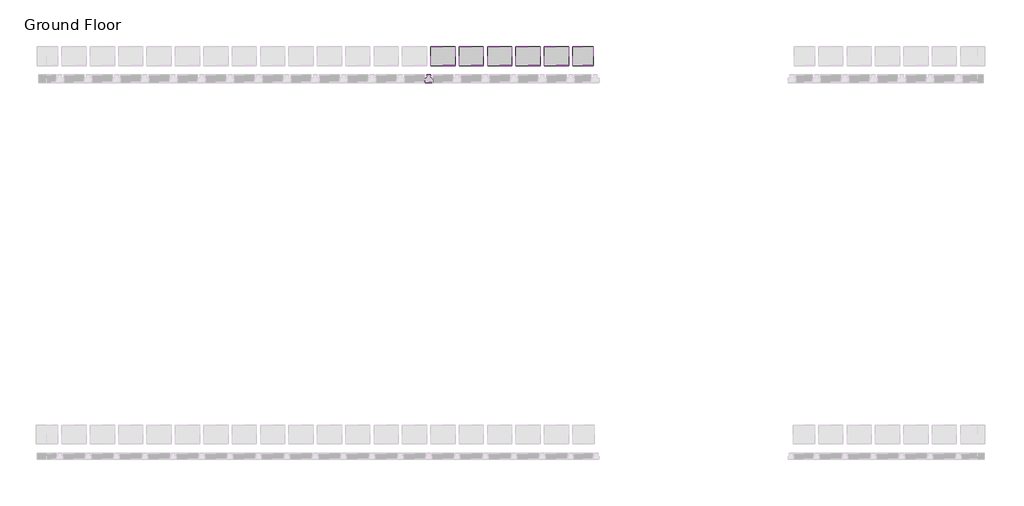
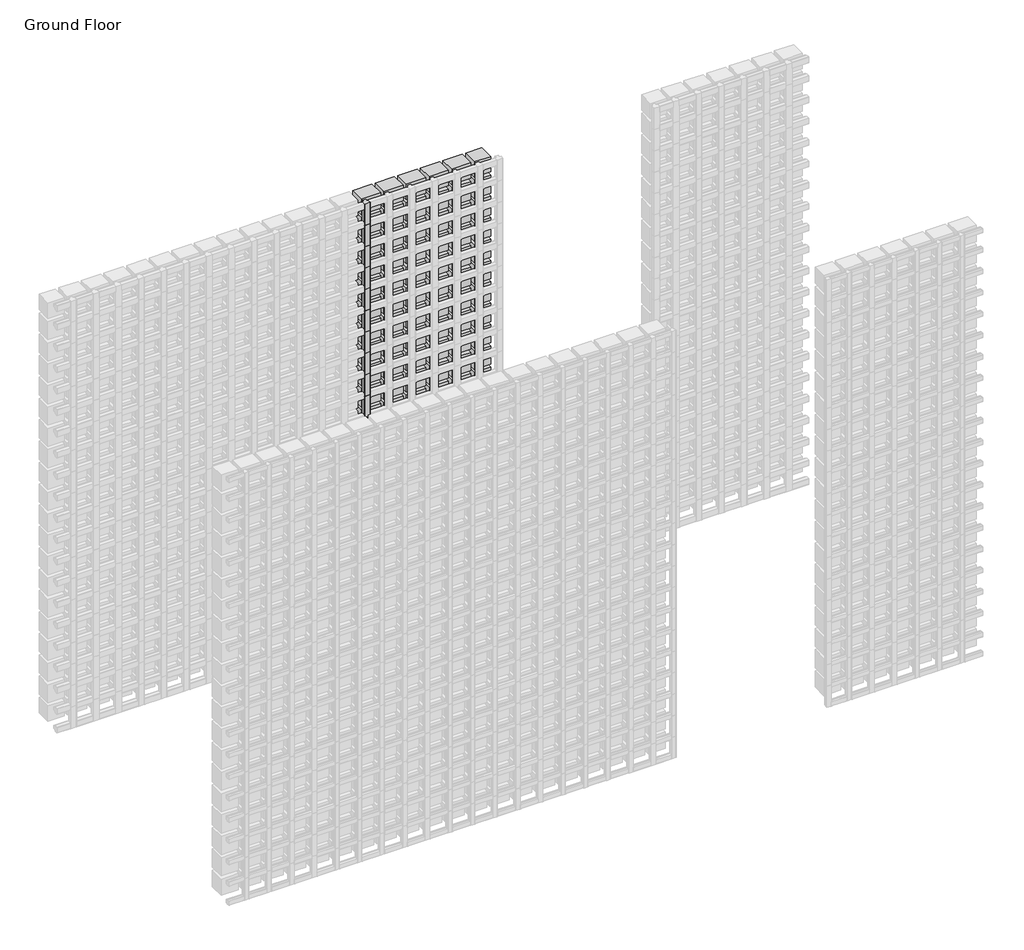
# One storey, part 115 of 350: 114 plates, 25 members.
"""IFC4 building model written with IfcOpenShell, lengths in millimetres."""

from ifc_helpers import new_model, si_unit, origin, place, context, project, spatial, transform, mapped, element, save
from components import rectangular_mullion_84e0df2e, rectangular_mullion_18d3c9e1, empty_system_panel_empty_5a3607ba, empty_system_panel_empty_5e80e148, empty_system_panel_empty_a9be3bbe, empty_system_panel_empty_a0248681

model = new_model("IFC4")

# Units and contexts
model_context = context("Model", 3, world=origin())
ifc_project = project(units=[si_unit("LENGTHUNIT", "METRE", prefix="MILLI")], contexts=[model_context])

# Site, building, storey
site = spatial("IfcSite", under=ifc_project)
building = spatial("IfcBuilding", under=site)
storey = spatial("IfcBuildingStorey", under=building, Name="Ground Floor", Elevation=0.0)

# Members
placement = place(None, origin())
rectangular_mullion_shape = rectangular_mullion_84e0df2e(model_context)
element("IfcMember", 1, ObjectType="Rectangular Mullion : Batten_Timber_Modinex_Austratus_Grid_Fin_40x40_AlaskanYellowCedar", at=placement, inside=storey, context=model_context, shape_type="MappedRepresentation", body=[
    mapped(rectangular_mullion_shape, transform((4016.4361642, 44968.2978302, 150.0), x_axis=(1.0, 0.0, 0.0), y_axis=(0.0, -1.0, 0.0), z_axis=(0.0, 0.0, -1.0))),
])
element("IfcMember", 2, ObjectType="Rectangular Mullion : Batten_Timber_Modinex_Austratus_Grid_Fin_40x40_AlaskanYellowCedar", at=placement, inside=storey, context=model_context, shape_type="MappedRepresentation", body=[
    mapped(rectangular_mullion_shape, transform((4016.4361642, 44968.2978302, 300.0), x_axis=(1.0, 0.0, 0.0), y_axis=(0.0, -1.0, 0.0), z_axis=(0.0, 0.0, -1.0))),
])
element("IfcMember", 3, ObjectType="Rectangular Mullion : Batten_Timber_Modinex_Austratus_Grid_Fin_40x40_AlaskanYellowCedar", at=placement, inside=storey, context=model_context, shape_type="MappedRepresentation", body=[
    mapped(rectangular_mullion_shape, transform((4016.4361642, 44968.2978302, 450.0), x_axis=(1.0, 0.0, 0.0), y_axis=(0.0, -1.0, 0.0), z_axis=(0.0, 0.0, -1.0))),
])
element("IfcMember", 4, ObjectType="Rectangular Mullion : Batten_Timber_Modinex_Austratus_Grid_Fin_40x40_AlaskanYellowCedar", at=placement, inside=storey, context=model_context, shape_type="MappedRepresentation", body=[
    mapped(rectangular_mullion_shape, transform((4016.4361642, 44968.2978302, 600.0), x_axis=(1.0, 0.0, 0.0), y_axis=(0.0, -1.0, 0.0), z_axis=(0.0, 0.0, -1.0))),
])
element("IfcMember", 5, ObjectType="Rectangular Mullion : Batten_Timber_Modinex_Austratus_Grid_Fin_40x40_AlaskanYellowCedar", at=placement, inside=storey, context=model_context, shape_type="MappedRepresentation", body=[
    mapped(rectangular_mullion_shape, transform((4016.4361642, 44968.2978302, 750.0), x_axis=(1.0, 0.0, 0.0), y_axis=(0.0, -1.0, 0.0), z_axis=(0.0, 0.0, -1.0))),
])
element("IfcMember", 6, ObjectType="Rectangular Mullion : Batten_Timber_Modinex_Austratus_Grid_Fin_40x40_AlaskanYellowCedar", at=placement, inside=storey, context=model_context, shape_type="MappedRepresentation", body=[
    mapped(rectangular_mullion_shape, transform((4016.4361642, 44968.2978302, 900.0), x_axis=(1.0, 0.0, 0.0), y_axis=(0.0, -1.0, 0.0), z_axis=(0.0, 0.0, -1.0))),
])
element("IfcMember", 7, ObjectType="Rectangular Mullion : Batten_Timber_Modinex_Austratus_Grid_Fin_40x40_AlaskanYellowCedar", at=placement, inside=storey, context=model_context, shape_type="MappedRepresentation", body=[
    mapped(rectangular_mullion_shape, transform((4016.4361642, 44968.2978302, 1050.0), x_axis=(1.0, 0.0, 0.0), y_axis=(0.0, -1.0, 0.0), z_axis=(0.0, 0.0, -1.0))),
])
element("IfcMember", 8, ObjectType="Rectangular Mullion : Batten_Timber_Modinex_Austratus_Grid_Fin_40x40_AlaskanYellowCedar", at=placement, inside=storey, context=model_context, shape_type="MappedRepresentation", body=[
    mapped(rectangular_mullion_shape, transform((4016.4361642, 44968.2978302, 1200.0), x_axis=(1.0, 0.0, 0.0), y_axis=(0.0, -1.0, 0.0), z_axis=(0.0, 0.0, -1.0))),
])
element("IfcMember", 9, ObjectType="Rectangular Mullion : Batten_Timber_Modinex_Austratus_Grid_Fin_40x40_AlaskanYellowCedar", at=placement, inside=storey, context=model_context, shape_type="MappedRepresentation", body=[
    mapped(rectangular_mullion_shape, transform((4016.4361642, 44968.2978302, 1350.0), x_axis=(1.0, 0.0, 0.0), y_axis=(0.0, -1.0, 0.0), z_axis=(0.0, 0.0, -1.0))),
])
element("IfcMember", 10, ObjectType="Rectangular Mullion : Batten_Timber_Modinex_Austratus_Grid_Fin_40x40_AlaskanYellowCedar", at=placement, inside=storey, context=model_context, shape_type="MappedRepresentation", body=[
    mapped(rectangular_mullion_shape, transform((4016.4361642, 44968.2978302, 1500.0), x_axis=(1.0, 0.0, 0.0), y_axis=(0.0, -1.0, 0.0), z_axis=(0.0, 0.0, -1.0))),
])
element("IfcMember", 11, ObjectType="Rectangular Mullion : Batten_Timber_Modinex_Austratus_Grid_Fin_40x40_AlaskanYellowCedar", at=placement, inside=storey, context=model_context, shape_type="MappedRepresentation", body=[
    mapped(rectangular_mullion_shape, transform((4016.4361642, 44968.2978302, 1650.0), x_axis=(1.0, 0.0, 0.0), y_axis=(0.0, -1.0, 0.0), z_axis=(0.0, 0.0, -1.0))),
])
element("IfcMember", 12, ObjectType="Rectangular Mullion : Batten_Timber_Modinex_Austratus_Grid_Fin_40x40_AlaskanYellowCedar", at=placement, inside=storey, context=model_context, shape_type="MappedRepresentation", body=[
    mapped(rectangular_mullion_shape, transform((4016.4361642, 44968.2978302, 1800.0), x_axis=(1.0, 0.0, 0.0), y_axis=(0.0, -1.0, 0.0), z_axis=(0.0, 0.0, -1.0))),
])
element("IfcMember", 13, ObjectType="Rectangular Mullion : Batten_Timber_Modinex_Austratus_Grid_Fin_40x40_AlaskanYellowCedar", at=placement, inside=storey, context=model_context, shape_type="MappedRepresentation", body=[
    mapped(rectangular_mullion_shape, transform((4016.4361642, 44968.2978302, 1950.0), x_axis=(1.0, 0.0, 0.0), y_axis=(0.0, -1.0, 0.0), z_axis=(0.0, 0.0, -1.0))),
])
element("IfcMember", 14, ObjectType="Rectangular Mullion : Batten_Timber_Modinex_Austratus_Grid_Fin_40x40_AlaskanYellowCedar", at=placement, inside=storey, context=model_context, shape_type="MappedRepresentation", body=[
    mapped(rectangular_mullion_shape, transform((4016.4361642, 44968.2978302, 2100.0), x_axis=(1.0, 0.0, 0.0), y_axis=(0.0, -1.0, 0.0), z_axis=(0.0, 0.0, -1.0))),
])
element("IfcMember", 15, ObjectType="Rectangular Mullion : Batten_Timber_Modinex_Austratus_Grid_Fin_40x40_AlaskanYellowCedar", at=placement, inside=storey, context=model_context, shape_type="MappedRepresentation", body=[
    mapped(rectangular_mullion_shape, transform((4016.4361642, 44968.2978302, 2250.0), x_axis=(1.0, 0.0, 0.0), y_axis=(0.0, -1.0, 0.0), z_axis=(0.0, 0.0, -1.0))),
])
element("IfcMember", 16, ObjectType="Rectangular Mullion : Batten_Timber_Modinex_Austratus_Grid_Fin_40x40_AlaskanYellowCedar", at=placement, inside=storey, context=model_context, shape_type="MappedRepresentation", body=[
    mapped(rectangular_mullion_shape, transform((4016.4361642, 44968.2978302, 2400.0), x_axis=(1.0, 0.0, 0.0), y_axis=(0.0, -1.0, 0.0), z_axis=(0.0, 0.0, -1.0))),
])
element("IfcMember", 17, ObjectType="Rectangular Mullion : Batten_Timber_Modinex_Austratus_Grid_Fin_40x40_AlaskanYellowCedar", at=placement, inside=storey, context=model_context, shape_type="MappedRepresentation", body=[
    mapped(rectangular_mullion_shape, transform((4016.4361642, 44968.2978302, 2550.0), x_axis=(1.0, 0.0, 0.0), y_axis=(0.0, -1.0, 0.0), z_axis=(0.0, 0.0, -1.0))),
])
element("IfcMember", 18, ObjectType="Rectangular Mullion : Batten_Timber_Modinex_Austratus_Grid_Fin_40x40_AlaskanYellowCedar", at=placement, inside=storey, context=model_context, shape_type="MappedRepresentation", body=[
    mapped(rectangular_mullion_shape, transform((4016.4361642, 44968.2978302, 2700.0), x_axis=(1.0, 0.0, 0.0), y_axis=(0.0, -1.0, 0.0), z_axis=(0.0, 0.0, -1.0))),
])
element("IfcMember", 19, ObjectType="Rectangular Mullion : Batten_Timber_Modinex_Austratus_Grid_Fin_40x40_AlaskanYellowCedar", at=placement, inside=storey, context=model_context, shape_type="MappedRepresentation", body=[
    mapped(rectangular_mullion_shape, transform((4166.4361642, 44968.2978302, 150.0), x_axis=(1.0, 0.0, 0.0), y_axis=(0.0, -1.0, 0.0), z_axis=(0.0, 0.0, -1.0))),
])
element("IfcMember", 20, ObjectType="Rectangular Mullion : Batten_Timber_Modinex_Austratus_Grid_Fin_40x40_AlaskanYellowCedar", at=placement, inside=storey, context=model_context, shape_type="MappedRepresentation", body=[
    mapped(rectangular_mullion_shape, transform((4166.4361642, 44968.2978302, 300.0), x_axis=(1.0, 0.0, 0.0), y_axis=(0.0, -1.0, 0.0), z_axis=(0.0, 0.0, -1.0))),
])
element("IfcMember", 21, ObjectType="Rectangular Mullion : Batten_Timber_Modinex_Austratus_Grid_Fin_40x40_AlaskanYellowCedar", at=placement, inside=storey, context=model_context, shape_type="MappedRepresentation", body=[
    mapped(rectangular_mullion_shape, transform((4166.4361642, 44968.2978302, 450.0), x_axis=(1.0, 0.0, 0.0), y_axis=(0.0, -1.0, 0.0), z_axis=(0.0, 0.0, -1.0))),
])
element("IfcMember", 22, ObjectType="Rectangular Mullion : Batten_Timber_Modinex_Austratus_Grid_Fin_40x40_AlaskanYellowCedar", at=placement, inside=storey, context=model_context, shape_type="MappedRepresentation", body=[
    mapped(rectangular_mullion_shape, transform((4166.4361642, 44968.2978302, 600.0), x_axis=(1.0, 0.0, 0.0), y_axis=(0.0, -1.0, 0.0), z_axis=(0.0, 0.0, -1.0))),
])
element("IfcMember", 23, ObjectType="Rectangular Mullion : Batten_Timber_Modinex_Austratus_Grid_Fin_40x40_AlaskanYellowCedar", at=placement, inside=storey, context=model_context, shape_type="MappedRepresentation", body=[
    mapped(rectangular_mullion_shape, transform((4166.4361642, 44968.2978302, 750.0), x_axis=(1.0, 0.0, 0.0), y_axis=(0.0, -1.0, 0.0), z_axis=(0.0, 0.0, -1.0))),
])
element("IfcMember", 24, ObjectType="Rectangular Mullion : Batten_Timber_Modinex_Austratus_Grid_Fin_40x40_AlaskanYellowCedar", at=placement, inside=storey, context=model_context, shape_type="MappedRepresentation", body=[
    mapped(rectangular_mullion_shape, transform((4016.4361642, 44968.2978302, 2850.0), x_axis=(1.0, 0.0, 0.0), y_axis=(0.0, -1.0, 0.0), z_axis=(0.0, 0.0, -1.0))),
])
rectangular_mullion_2_shape = rectangular_mullion_18d3c9e1(model_context)
element("IfcMember", 25, ObjectType="Rectangular Mullion : Batten_Timber_Modinex_Austratus_Grid_Fin_40x40_AlaskanYellowCedar", at=placement, inside=storey, context=model_context, shape_type="MappedRepresentation", body=[
    mapped(rectangular_mullion_2_shape, transform((4916.4361639, 44968.2978302, 0.0), x_axis=(1.0, 0.0, 0.0), y_axis=(0.0, -1.0, 0.0), z_axis=(0.0, 0.0, -1.0))),
])

# Plates
empty_system_panel_empty_shape = empty_system_panel_empty_5a3607ba(model_context)
element("IfcPlate", 26, ObjectType="Empty System Panel : Empty", at=placement, inside=storey, context=model_context, shape_type="MappedRepresentation", body=[
    mapped(empty_system_panel_empty_shape, transform((4091.4361642, 44968.2978302, 160.812195), x_axis=(1.0, 0.0, 0.0), y_axis=(0.0, 1.0, 0.0), z_axis=(0.0, 0.0, 1.0))),
])
element("IfcPlate", 27, ObjectType="Empty System Panel : Empty", at=placement, inside=storey, context=model_context, shape_type="MappedRepresentation", body=[
    mapped(empty_system_panel_empty_shape, transform((4241.4361642, 44968.2978302, 160.812195), x_axis=(1.0, 0.0, 0.0), y_axis=(0.0, 1.0, 0.0), z_axis=(0.0, 0.0, 1.0))),
])
element("IfcPlate", 28, ObjectType="Empty System Panel : Empty", at=placement, inside=storey, context=model_context, shape_type="MappedRepresentation", body=[
    mapped(empty_system_panel_empty_shape, transform((4391.4361642, 44968.2978302, 160.812195), x_axis=(1.0, 0.0, 0.0), y_axis=(0.0, 1.0, 0.0), z_axis=(0.0, 0.0, 1.0))),
])
element("IfcPlate", 29, ObjectType="Empty System Panel : Empty", at=placement, inside=storey, context=model_context, shape_type="MappedRepresentation", body=[
    mapped(empty_system_panel_empty_shape, transform((4541.4361642, 44968.2978302, 160.812195), x_axis=(1.0, 0.0, 0.0), y_axis=(0.0, 1.0, 0.0), z_axis=(0.0, 0.0, 1.0))),
])
element("IfcPlate", 30, ObjectType="Empty System Panel : Empty", at=placement, inside=storey, context=model_context, shape_type="MappedRepresentation", body=[
    mapped(empty_system_panel_empty_shape, transform((4691.4361642, 44968.2978302, 160.812195), x_axis=(1.0, 0.0, 0.0), y_axis=(0.0, 1.0, 0.0), z_axis=(0.0, 0.0, 1.0))),
])
element("IfcPlate", 31, ObjectType="Empty System Panel : Empty", at=placement, inside=storey, context=model_context, shape_type="MappedRepresentation", body=[
    mapped(empty_system_panel_empty_shape, transform((4091.4361642, 44968.2978302, 310.812195), x_axis=(1.0, 0.0, 0.0), y_axis=(0.0, 1.0, 0.0), z_axis=(0.0, 0.0, 1.0))),
])
element("IfcPlate", 32, ObjectType="Empty System Panel : Empty", at=placement, inside=storey, context=model_context, shape_type="MappedRepresentation", body=[
    mapped(empty_system_panel_empty_shape, transform((4241.4361642, 44968.2978302, 310.812195), x_axis=(1.0, 0.0, 0.0), y_axis=(0.0, 1.0, 0.0), z_axis=(0.0, 0.0, 1.0))),
])
element("IfcPlate", 33, ObjectType="Empty System Panel : Empty", at=placement, inside=storey, context=model_context, shape_type="MappedRepresentation", body=[
    mapped(empty_system_panel_empty_shape, transform((4391.4361642, 44968.2978302, 310.812195), x_axis=(1.0, 0.0, 0.0), y_axis=(0.0, 1.0, 0.0), z_axis=(0.0, 0.0, 1.0))),
])
element("IfcPlate", 34, ObjectType="Empty System Panel : Empty", at=placement, inside=storey, context=model_context, shape_type="MappedRepresentation", body=[
    mapped(empty_system_panel_empty_shape, transform((4541.4361642, 44968.2978302, 310.812195), x_axis=(1.0, 0.0, 0.0), y_axis=(0.0, 1.0, 0.0), z_axis=(0.0, 0.0, 1.0))),
])
element("IfcPlate", 35, ObjectType="Empty System Panel : Empty", at=placement, inside=storey, context=model_context, shape_type="MappedRepresentation", body=[
    mapped(empty_system_panel_empty_shape, transform((4691.4361642, 44968.2978302, 310.812195), x_axis=(1.0, 0.0, 0.0), y_axis=(0.0, 1.0, 0.0), z_axis=(0.0, 0.0, 1.0))),
])
element("IfcPlate", 36, ObjectType="Empty System Panel : Empty", at=placement, inside=storey, context=model_context, shape_type="MappedRepresentation", body=[
    mapped(empty_system_panel_empty_shape, transform((4091.4361642, 44968.2978302, 460.812195), x_axis=(1.0, 0.0, 0.0), y_axis=(0.0, 1.0, 0.0), z_axis=(0.0, 0.0, 1.0))),
])
element("IfcPlate", 37, ObjectType="Empty System Panel : Empty", at=placement, inside=storey, context=model_context, shape_type="MappedRepresentation", body=[
    mapped(empty_system_panel_empty_shape, transform((4241.4361642, 44968.2978302, 460.812195), x_axis=(1.0, 0.0, 0.0), y_axis=(0.0, 1.0, 0.0), z_axis=(0.0, 0.0, 1.0))),
])
element("IfcPlate", 38, ObjectType="Empty System Panel : Empty", at=placement, inside=storey, context=model_context, shape_type="MappedRepresentation", body=[
    mapped(empty_system_panel_empty_shape, transform((4391.4361642, 44968.2978302, 460.812195), x_axis=(1.0, 0.0, 0.0), y_axis=(0.0, 1.0, 0.0), z_axis=(0.0, 0.0, 1.0))),
])
element("IfcPlate", 39, ObjectType="Empty System Panel : Empty", at=placement, inside=storey, context=model_context, shape_type="MappedRepresentation", body=[
    mapped(empty_system_panel_empty_shape, transform((4541.4361642, 44968.2978302, 460.812195), x_axis=(1.0, 0.0, 0.0), y_axis=(0.0, 1.0, 0.0), z_axis=(0.0, 0.0, 1.0))),
])
element("IfcPlate", 40, ObjectType="Empty System Panel : Empty", at=placement, inside=storey, context=model_context, shape_type="MappedRepresentation", body=[
    mapped(empty_system_panel_empty_shape, transform((4691.4361642, 44968.2978302, 460.812195), x_axis=(1.0, 0.0, 0.0), y_axis=(0.0, 1.0, 0.0), z_axis=(0.0, 0.0, 1.0))),
])
element("IfcPlate", 41, ObjectType="Empty System Panel : Empty", at=placement, inside=storey, context=model_context, shape_type="MappedRepresentation", body=[
    mapped(empty_system_panel_empty_shape, transform((4091.4361642, 44968.2978302, 610.812195), x_axis=(1.0, 0.0, 0.0), y_axis=(0.0, 1.0, 0.0), z_axis=(0.0, 0.0, 1.0))),
])
element("IfcPlate", 42, ObjectType="Empty System Panel : Empty", at=placement, inside=storey, context=model_context, shape_type="MappedRepresentation", body=[
    mapped(empty_system_panel_empty_shape, transform((4241.4361642, 44968.2978302, 610.812195), x_axis=(1.0, 0.0, 0.0), y_axis=(0.0, 1.0, 0.0), z_axis=(0.0, 0.0, 1.0))),
])
element("IfcPlate", 43, ObjectType="Empty System Panel : Empty", at=placement, inside=storey, context=model_context, shape_type="MappedRepresentation", body=[
    mapped(empty_system_panel_empty_shape, transform((4391.4361642, 44968.2978302, 610.812195), x_axis=(1.0, 0.0, 0.0), y_axis=(0.0, 1.0, 0.0), z_axis=(0.0, 0.0, 1.0))),
])
element("IfcPlate", 44, ObjectType="Empty System Panel : Empty", at=placement, inside=storey, context=model_context, shape_type="MappedRepresentation", body=[
    mapped(empty_system_panel_empty_shape, transform((4541.4361642, 44968.2978302, 610.812195), x_axis=(1.0, 0.0, 0.0), y_axis=(0.0, 1.0, 0.0), z_axis=(0.0, 0.0, 1.0))),
])
element("IfcPlate", 45, ObjectType="Empty System Panel : Empty", at=placement, inside=storey, context=model_context, shape_type="MappedRepresentation", body=[
    mapped(empty_system_panel_empty_shape, transform((4691.4361642, 44968.2978302, 610.812195), x_axis=(1.0, 0.0, 0.0), y_axis=(0.0, 1.0, 0.0), z_axis=(0.0, 0.0, 1.0))),
])
element("IfcPlate", 46, ObjectType="Empty System Panel : Empty", at=placement, inside=storey, context=model_context, shape_type="MappedRepresentation", body=[
    mapped(empty_system_panel_empty_shape, transform((4091.4361642, 44968.2978302, 760.812195), x_axis=(1.0, 0.0, 0.0), y_axis=(0.0, 1.0, 0.0), z_axis=(0.0, 0.0, 1.0))),
])
element("IfcPlate", 47, ObjectType="Empty System Panel : Empty", at=placement, inside=storey, context=model_context, shape_type="MappedRepresentation", body=[
    mapped(empty_system_panel_empty_shape, transform((4241.4361642, 44968.2978302, 760.812195), x_axis=(1.0, 0.0, 0.0), y_axis=(0.0, 1.0, 0.0), z_axis=(0.0, 0.0, 1.0))),
])
element("IfcPlate", 48, ObjectType="Empty System Panel : Empty", at=placement, inside=storey, context=model_context, shape_type="MappedRepresentation", body=[
    mapped(empty_system_panel_empty_shape, transform((4391.4361642, 44968.2978302, 760.812195), x_axis=(1.0, 0.0, 0.0), y_axis=(0.0, 1.0, 0.0), z_axis=(0.0, 0.0, 1.0))),
])
element("IfcPlate", 49, ObjectType="Empty System Panel : Empty", at=placement, inside=storey, context=model_context, shape_type="MappedRepresentation", body=[
    mapped(empty_system_panel_empty_shape, transform((4541.4361642, 44968.2978302, 760.812195), x_axis=(1.0, 0.0, 0.0), y_axis=(0.0, 1.0, 0.0), z_axis=(0.0, 0.0, 1.0))),
])
element("IfcPlate", 50, ObjectType="Empty System Panel : Empty", at=placement, inside=storey, context=model_context, shape_type="MappedRepresentation", body=[
    mapped(empty_system_panel_empty_shape, transform((4691.4361642, 44968.2978302, 760.812195), x_axis=(1.0, 0.0, 0.0), y_axis=(0.0, 1.0, 0.0), z_axis=(0.0, 0.0, 1.0))),
])
element("IfcPlate", 51, ObjectType="Empty System Panel : Empty", at=placement, inside=storey, context=model_context, shape_type="MappedRepresentation", body=[
    mapped(empty_system_panel_empty_shape, transform((4091.4361642, 44968.2978302, 910.812195), x_axis=(1.0, 0.0, 0.0), y_axis=(0.0, 1.0, 0.0), z_axis=(0.0, 0.0, 1.0))),
])
element("IfcPlate", 52, ObjectType="Empty System Panel : Empty", at=placement, inside=storey, context=model_context, shape_type="MappedRepresentation", body=[
    mapped(empty_system_panel_empty_shape, transform((4241.4361642, 44968.2978302, 910.812195), x_axis=(1.0, 0.0, 0.0), y_axis=(0.0, 1.0, 0.0), z_axis=(0.0, 0.0, 1.0))),
])
element("IfcPlate", 53, ObjectType="Empty System Panel : Empty", at=placement, inside=storey, context=model_context, shape_type="MappedRepresentation", body=[
    mapped(empty_system_panel_empty_shape, transform((4391.4361642, 44968.2978302, 910.812195), x_axis=(1.0, 0.0, 0.0), y_axis=(0.0, 1.0, 0.0), z_axis=(0.0, 0.0, 1.0))),
])
element("IfcPlate", 54, ObjectType="Empty System Panel : Empty", at=placement, inside=storey, context=model_context, shape_type="MappedRepresentation", body=[
    mapped(empty_system_panel_empty_shape, transform((4541.4361642, 44968.2978302, 910.812195), x_axis=(1.0, 0.0, 0.0), y_axis=(0.0, 1.0, 0.0), z_axis=(0.0, 0.0, 1.0))),
])
element("IfcPlate", 55, ObjectType="Empty System Panel : Empty", at=placement, inside=storey, context=model_context, shape_type="MappedRepresentation", body=[
    mapped(empty_system_panel_empty_shape, transform((4691.4361642, 44968.2978302, 910.812195), x_axis=(1.0, 0.0, 0.0), y_axis=(0.0, 1.0, 0.0), z_axis=(0.0, 0.0, 1.0))),
])
element("IfcPlate", 56, ObjectType="Empty System Panel : Empty", at=placement, inside=storey, context=model_context, shape_type="MappedRepresentation", body=[
    mapped(empty_system_panel_empty_shape, transform((4091.4361642, 44968.2978302, 1060.812195), x_axis=(1.0, 0.0, 0.0), y_axis=(0.0, 1.0, 0.0), z_axis=(0.0, 0.0, 1.0))),
])
element("IfcPlate", 57, ObjectType="Empty System Panel : Empty", at=placement, inside=storey, context=model_context, shape_type="MappedRepresentation", body=[
    mapped(empty_system_panel_empty_shape, transform((4241.4361642, 44968.2978302, 1060.812195), x_axis=(1.0, 0.0, 0.0), y_axis=(0.0, 1.0, 0.0), z_axis=(0.0, 0.0, 1.0))),
])
element("IfcPlate", 58, ObjectType="Empty System Panel : Empty", at=placement, inside=storey, context=model_context, shape_type="MappedRepresentation", body=[
    mapped(empty_system_panel_empty_shape, transform((4391.4361642, 44968.2978302, 1060.812195), x_axis=(1.0, 0.0, 0.0), y_axis=(0.0, 1.0, 0.0), z_axis=(0.0, 0.0, 1.0))),
])
element("IfcPlate", 59, ObjectType="Empty System Panel : Empty", at=placement, inside=storey, context=model_context, shape_type="MappedRepresentation", body=[
    mapped(empty_system_panel_empty_shape, transform((4541.4361642, 44968.2978302, 1060.812195), x_axis=(1.0, 0.0, 0.0), y_axis=(0.0, 1.0, 0.0), z_axis=(0.0, 0.0, 1.0))),
])
element("IfcPlate", 60, ObjectType="Empty System Panel : Empty", at=placement, inside=storey, context=model_context, shape_type="MappedRepresentation", body=[
    mapped(empty_system_panel_empty_shape, transform((4691.4361642, 44968.2978302, 1060.812195), x_axis=(1.0, 0.0, 0.0), y_axis=(0.0, 1.0, 0.0), z_axis=(0.0, 0.0, 1.0))),
])
element("IfcPlate", 61, ObjectType="Empty System Panel : Empty", at=placement, inside=storey, context=model_context, shape_type="MappedRepresentation", body=[
    mapped(empty_system_panel_empty_shape, transform((4091.4361642, 44968.2978302, 1210.812195), x_axis=(1.0, 0.0, 0.0), y_axis=(0.0, 1.0, 0.0), z_axis=(0.0, 0.0, 1.0))),
])
element("IfcPlate", 62, ObjectType="Empty System Panel : Empty", at=placement, inside=storey, context=model_context, shape_type="MappedRepresentation", body=[
    mapped(empty_system_panel_empty_shape, transform((4241.4361642, 44968.2978302, 1210.812195), x_axis=(1.0, 0.0, 0.0), y_axis=(0.0, 1.0, 0.0), z_axis=(0.0, 0.0, 1.0))),
])
element("IfcPlate", 63, ObjectType="Empty System Panel : Empty", at=placement, inside=storey, context=model_context, shape_type="MappedRepresentation", body=[
    mapped(empty_system_panel_empty_shape, transform((4391.4361642, 44968.2978302, 1210.812195), x_axis=(1.0, 0.0, 0.0), y_axis=(0.0, 1.0, 0.0), z_axis=(0.0, 0.0, 1.0))),
])
element("IfcPlate", 64, ObjectType="Empty System Panel : Empty", at=placement, inside=storey, context=model_context, shape_type="MappedRepresentation", body=[
    mapped(empty_system_panel_empty_shape, transform((4541.4361642, 44968.2978302, 1210.812195), x_axis=(1.0, 0.0, 0.0), y_axis=(0.0, 1.0, 0.0), z_axis=(0.0, 0.0, 1.0))),
])
element("IfcPlate", 65, ObjectType="Empty System Panel : Empty", at=placement, inside=storey, context=model_context, shape_type="MappedRepresentation", body=[
    mapped(empty_system_panel_empty_shape, transform((4691.4361642, 44968.2978302, 1210.812195), x_axis=(1.0, 0.0, 0.0), y_axis=(0.0, 1.0, 0.0), z_axis=(0.0, 0.0, 1.0))),
])
element("IfcPlate", 66, ObjectType="Empty System Panel : Empty", at=placement, inside=storey, context=model_context, shape_type="MappedRepresentation", body=[
    mapped(empty_system_panel_empty_shape, transform((4091.4361642, 44968.2978302, 1360.812195), x_axis=(1.0, 0.0, 0.0), y_axis=(0.0, 1.0, 0.0), z_axis=(0.0, 0.0, 1.0))),
])
element("IfcPlate", 67, ObjectType="Empty System Panel : Empty", at=placement, inside=storey, context=model_context, shape_type="MappedRepresentation", body=[
    mapped(empty_system_panel_empty_shape, transform((4241.4361642, 44968.2978302, 1360.812195), x_axis=(1.0, 0.0, 0.0), y_axis=(0.0, 1.0, 0.0), z_axis=(0.0, 0.0, 1.0))),
])
element("IfcPlate", 68, ObjectType="Empty System Panel : Empty", at=placement, inside=storey, context=model_context, shape_type="MappedRepresentation", body=[
    mapped(empty_system_panel_empty_shape, transform((4391.4361642, 44968.2978302, 1360.812195), x_axis=(1.0, 0.0, 0.0), y_axis=(0.0, 1.0, 0.0), z_axis=(0.0, 0.0, 1.0))),
])
element("IfcPlate", 69, ObjectType="Empty System Panel : Empty", at=placement, inside=storey, context=model_context, shape_type="MappedRepresentation", body=[
    mapped(empty_system_panel_empty_shape, transform((4541.4361642, 44968.2978302, 1360.812195), x_axis=(1.0, 0.0, 0.0), y_axis=(0.0, 1.0, 0.0), z_axis=(0.0, 0.0, 1.0))),
])
element("IfcPlate", 70, ObjectType="Empty System Panel : Empty", at=placement, inside=storey, context=model_context, shape_type="MappedRepresentation", body=[
    mapped(empty_system_panel_empty_shape, transform((4691.4361642, 44968.2978302, 1360.812195), x_axis=(1.0, 0.0, 0.0), y_axis=(0.0, 1.0, 0.0), z_axis=(0.0, 0.0, 1.0))),
])
element("IfcPlate", 71, ObjectType="Empty System Panel : Empty", at=placement, inside=storey, context=model_context, shape_type="MappedRepresentation", body=[
    mapped(empty_system_panel_empty_shape, transform((4091.4361642, 44968.2978302, 1510.812195), x_axis=(1.0, 0.0, 0.0), y_axis=(0.0, 1.0, 0.0), z_axis=(0.0, 0.0, 1.0))),
])
element("IfcPlate", 72, ObjectType="Empty System Panel : Empty", at=placement, inside=storey, context=model_context, shape_type="MappedRepresentation", body=[
    mapped(empty_system_panel_empty_shape, transform((4241.4361642, 44968.2978302, 1510.812195), x_axis=(1.0, 0.0, 0.0), y_axis=(0.0, 1.0, 0.0), z_axis=(0.0, 0.0, 1.0))),
])
element("IfcPlate", 73, ObjectType="Empty System Panel : Empty", at=placement, inside=storey, context=model_context, shape_type="MappedRepresentation", body=[
    mapped(empty_system_panel_empty_shape, transform((4391.4361642, 44968.2978302, 1510.812195), x_axis=(1.0, 0.0, 0.0), y_axis=(0.0, 1.0, 0.0), z_axis=(0.0, 0.0, 1.0))),
])
element("IfcPlate", 74, ObjectType="Empty System Panel : Empty", at=placement, inside=storey, context=model_context, shape_type="MappedRepresentation", body=[
    mapped(empty_system_panel_empty_shape, transform((4541.4361642, 44968.2978302, 1510.812195), x_axis=(1.0, 0.0, 0.0), y_axis=(0.0, 1.0, 0.0), z_axis=(0.0, 0.0, 1.0))),
])
element("IfcPlate", 75, ObjectType="Empty System Panel : Empty", at=placement, inside=storey, context=model_context, shape_type="MappedRepresentation", body=[
    mapped(empty_system_panel_empty_shape, transform((4691.4361642, 44968.2978302, 1510.812195), x_axis=(1.0, 0.0, 0.0), y_axis=(0.0, 1.0, 0.0), z_axis=(0.0, 0.0, 1.0))),
])
element("IfcPlate", 76, ObjectType="Empty System Panel : Empty", at=placement, inside=storey, context=model_context, shape_type="MappedRepresentation", body=[
    mapped(empty_system_panel_empty_shape, transform((4091.4361642, 44968.2978302, 1660.812195), x_axis=(1.0, 0.0, 0.0), y_axis=(0.0, 1.0, 0.0), z_axis=(0.0, 0.0, 1.0))),
])
element("IfcPlate", 77, ObjectType="Empty System Panel : Empty", at=placement, inside=storey, context=model_context, shape_type="MappedRepresentation", body=[
    mapped(empty_system_panel_empty_shape, transform((4241.4361642, 44968.2978302, 1660.812195), x_axis=(1.0, 0.0, 0.0), y_axis=(0.0, 1.0, 0.0), z_axis=(0.0, 0.0, 1.0))),
])
element("IfcPlate", 78, ObjectType="Empty System Panel : Empty", at=placement, inside=storey, context=model_context, shape_type="MappedRepresentation", body=[
    mapped(empty_system_panel_empty_shape, transform((4391.4361642, 44968.2978302, 1660.812195), x_axis=(1.0, 0.0, 0.0), y_axis=(0.0, 1.0, 0.0), z_axis=(0.0, 0.0, 1.0))),
])
element("IfcPlate", 79, ObjectType="Empty System Panel : Empty", at=placement, inside=storey, context=model_context, shape_type="MappedRepresentation", body=[
    mapped(empty_system_panel_empty_shape, transform((4541.4361642, 44968.2978302, 1660.812195), x_axis=(1.0, 0.0, 0.0), y_axis=(0.0, 1.0, 0.0), z_axis=(0.0, 0.0, 1.0))),
])
element("IfcPlate", 80, ObjectType="Empty System Panel : Empty", at=placement, inside=storey, context=model_context, shape_type="MappedRepresentation", body=[
    mapped(empty_system_panel_empty_shape, transform((4691.4361642, 44968.2978302, 1660.812195), x_axis=(1.0, 0.0, 0.0), y_axis=(0.0, 1.0, 0.0), z_axis=(0.0, 0.0, 1.0))),
])
element("IfcPlate", 81, ObjectType="Empty System Panel : Empty", at=placement, inside=storey, context=model_context, shape_type="MappedRepresentation", body=[
    mapped(empty_system_panel_empty_shape, transform((4091.4361642, 44968.2978302, 1810.812195), x_axis=(1.0, 0.0, 0.0), y_axis=(0.0, 1.0, 0.0), z_axis=(0.0, 0.0, 1.0))),
])
element("IfcPlate", 82, ObjectType="Empty System Panel : Empty", at=placement, inside=storey, context=model_context, shape_type="MappedRepresentation", body=[
    mapped(empty_system_panel_empty_shape, transform((4241.4361642, 44968.2978302, 1810.812195), x_axis=(1.0, 0.0, 0.0), y_axis=(0.0, 1.0, 0.0), z_axis=(0.0, 0.0, 1.0))),
])
element("IfcPlate", 83, ObjectType="Empty System Panel : Empty", at=placement, inside=storey, context=model_context, shape_type="MappedRepresentation", body=[
    mapped(empty_system_panel_empty_shape, transform((4391.4361642, 44968.2978302, 1810.812195), x_axis=(1.0, 0.0, 0.0), y_axis=(0.0, 1.0, 0.0), z_axis=(0.0, 0.0, 1.0))),
])
element("IfcPlate", 84, ObjectType="Empty System Panel : Empty", at=placement, inside=storey, context=model_context, shape_type="MappedRepresentation", body=[
    mapped(empty_system_panel_empty_shape, transform((4541.4361642, 44968.2978302, 1810.812195), x_axis=(1.0, 0.0, 0.0), y_axis=(0.0, 1.0, 0.0), z_axis=(0.0, 0.0, 1.0))),
])
element("IfcPlate", 85, ObjectType="Empty System Panel : Empty", at=placement, inside=storey, context=model_context, shape_type="MappedRepresentation", body=[
    mapped(empty_system_panel_empty_shape, transform((4691.4361642, 44968.2978302, 1810.812195), x_axis=(1.0, 0.0, 0.0), y_axis=(0.0, 1.0, 0.0), z_axis=(0.0, 0.0, 1.0))),
])
element("IfcPlate", 86, ObjectType="Empty System Panel : Empty", at=placement, inside=storey, context=model_context, shape_type="MappedRepresentation", body=[
    mapped(empty_system_panel_empty_shape, transform((4091.4361642, 44968.2978302, 1960.812195), x_axis=(1.0, 0.0, 0.0), y_axis=(0.0, 1.0, 0.0), z_axis=(0.0, 0.0, 1.0))),
])
element("IfcPlate", 87, ObjectType="Empty System Panel : Empty", at=placement, inside=storey, context=model_context, shape_type="MappedRepresentation", body=[
    mapped(empty_system_panel_empty_shape, transform((4241.4361642, 44968.2978302, 1960.812195), x_axis=(1.0, 0.0, 0.0), y_axis=(0.0, 1.0, 0.0), z_axis=(0.0, 0.0, 1.0))),
])
element("IfcPlate", 88, ObjectType="Empty System Panel : Empty", at=placement, inside=storey, context=model_context, shape_type="MappedRepresentation", body=[
    mapped(empty_system_panel_empty_shape, transform((4391.4361642, 44968.2978302, 1960.812195), x_axis=(1.0, 0.0, 0.0), y_axis=(0.0, 1.0, 0.0), z_axis=(0.0, 0.0, 1.0))),
])
element("IfcPlate", 89, ObjectType="Empty System Panel : Empty", at=placement, inside=storey, context=model_context, shape_type="MappedRepresentation", body=[
    mapped(empty_system_panel_empty_shape, transform((4541.4361642, 44968.2978302, 1960.812195), x_axis=(1.0, 0.0, 0.0), y_axis=(0.0, 1.0, 0.0), z_axis=(0.0, 0.0, 1.0))),
])
element("IfcPlate", 90, ObjectType="Empty System Panel : Empty", at=placement, inside=storey, context=model_context, shape_type="MappedRepresentation", body=[
    mapped(empty_system_panel_empty_shape, transform((4691.4361642, 44968.2978302, 1960.812195), x_axis=(1.0, 0.0, 0.0), y_axis=(0.0, 1.0, 0.0), z_axis=(0.0, 0.0, 1.0))),
])
element("IfcPlate", 91, ObjectType="Empty System Panel : Empty", at=placement, inside=storey, context=model_context, shape_type="MappedRepresentation", body=[
    mapped(empty_system_panel_empty_shape, transform((4091.4361642, 44968.2978302, 2110.812195), x_axis=(1.0, 0.0, 0.0), y_axis=(0.0, 1.0, 0.0), z_axis=(0.0, 0.0, 1.0))),
])
element("IfcPlate", 92, ObjectType="Empty System Panel : Empty", at=placement, inside=storey, context=model_context, shape_type="MappedRepresentation", body=[
    mapped(empty_system_panel_empty_shape, transform((4241.4361642, 44968.2978302, 2110.812195), x_axis=(1.0, 0.0, 0.0), y_axis=(0.0, 1.0, 0.0), z_axis=(0.0, 0.0, 1.0))),
])
element("IfcPlate", 93, ObjectType="Empty System Panel : Empty", at=placement, inside=storey, context=model_context, shape_type="MappedRepresentation", body=[
    mapped(empty_system_panel_empty_shape, transform((4391.4361642, 44968.2978302, 2110.812195), x_axis=(1.0, 0.0, 0.0), y_axis=(0.0, 1.0, 0.0), z_axis=(0.0, 0.0, 1.0))),
])
element("IfcPlate", 94, ObjectType="Empty System Panel : Empty", at=placement, inside=storey, context=model_context, shape_type="MappedRepresentation", body=[
    mapped(empty_system_panel_empty_shape, transform((4541.4361642, 44968.2978302, 2110.812195), x_axis=(1.0, 0.0, 0.0), y_axis=(0.0, 1.0, 0.0), z_axis=(0.0, 0.0, 1.0))),
])
element("IfcPlate", 95, ObjectType="Empty System Panel : Empty", at=placement, inside=storey, context=model_context, shape_type="MappedRepresentation", body=[
    mapped(empty_system_panel_empty_shape, transform((4691.4361642, 44968.2978302, 2110.812195), x_axis=(1.0, 0.0, 0.0), y_axis=(0.0, 1.0, 0.0), z_axis=(0.0, 0.0, 1.0))),
])
element("IfcPlate", 96, ObjectType="Empty System Panel : Empty", at=placement, inside=storey, context=model_context, shape_type="MappedRepresentation", body=[
    mapped(empty_system_panel_empty_shape, transform((4091.4361642, 44968.2978302, 2260.812195), x_axis=(1.0, 0.0, 0.0), y_axis=(0.0, 1.0, 0.0), z_axis=(0.0, 0.0, 1.0))),
])
element("IfcPlate", 97, ObjectType="Empty System Panel : Empty", at=placement, inside=storey, context=model_context, shape_type="MappedRepresentation", body=[
    mapped(empty_system_panel_empty_shape, transform((4241.4361642, 44968.2978302, 2260.812195), x_axis=(1.0, 0.0, 0.0), y_axis=(0.0, 1.0, 0.0), z_axis=(0.0, 0.0, 1.0))),
])
element("IfcPlate", 98, ObjectType="Empty System Panel : Empty", at=placement, inside=storey, context=model_context, shape_type="MappedRepresentation", body=[
    mapped(empty_system_panel_empty_shape, transform((4391.4361642, 44968.2978302, 2260.812195), x_axis=(1.0, 0.0, 0.0), y_axis=(0.0, 1.0, 0.0), z_axis=(0.0, 0.0, 1.0))),
])
element("IfcPlate", 99, ObjectType="Empty System Panel : Empty", at=placement, inside=storey, context=model_context, shape_type="MappedRepresentation", body=[
    mapped(empty_system_panel_empty_shape, transform((4541.4361642, 44968.2978302, 2260.812195), x_axis=(1.0, 0.0, 0.0), y_axis=(0.0, 1.0, 0.0), z_axis=(0.0, 0.0, 1.0))),
])
element("IfcPlate", 100, ObjectType="Empty System Panel : Empty", at=placement, inside=storey, context=model_context, shape_type="MappedRepresentation", body=[
    mapped(empty_system_panel_empty_shape, transform((4691.4361642, 44968.2978302, 2260.812195), x_axis=(1.0, 0.0, 0.0), y_axis=(0.0, 1.0, 0.0), z_axis=(0.0, 0.0, 1.0))),
])
element("IfcPlate", 101, ObjectType="Empty System Panel : Empty", at=placement, inside=storey, context=model_context, shape_type="MappedRepresentation", body=[
    mapped(empty_system_panel_empty_shape, transform((4091.4361642, 44968.2978302, 2410.812195), x_axis=(1.0, 0.0, 0.0), y_axis=(0.0, 1.0, 0.0), z_axis=(0.0, 0.0, 1.0))),
])
element("IfcPlate", 102, ObjectType="Empty System Panel : Empty", at=placement, inside=storey, context=model_context, shape_type="MappedRepresentation", body=[
    mapped(empty_system_panel_empty_shape, transform((4241.4361642, 44968.2978302, 2410.812195), x_axis=(1.0, 0.0, 0.0), y_axis=(0.0, 1.0, 0.0), z_axis=(0.0, 0.0, 1.0))),
])
element("IfcPlate", 103, ObjectType="Empty System Panel : Empty", at=placement, inside=storey, context=model_context, shape_type="MappedRepresentation", body=[
    mapped(empty_system_panel_empty_shape, transform((4391.4361642, 44968.2978302, 2410.812195), x_axis=(1.0, 0.0, 0.0), y_axis=(0.0, 1.0, 0.0), z_axis=(0.0, 0.0, 1.0))),
])
element("IfcPlate", 104, ObjectType="Empty System Panel : Empty", at=placement, inside=storey, context=model_context, shape_type="MappedRepresentation", body=[
    mapped(empty_system_panel_empty_shape, transform((4541.4361642, 44968.2978302, 2410.812195), x_axis=(1.0, 0.0, 0.0), y_axis=(0.0, 1.0, 0.0), z_axis=(0.0, 0.0, 1.0))),
])
element("IfcPlate", 105, ObjectType="Empty System Panel : Empty", at=placement, inside=storey, context=model_context, shape_type="MappedRepresentation", body=[
    mapped(empty_system_panel_empty_shape, transform((4691.4361642, 44968.2978302, 2410.812195), x_axis=(1.0, 0.0, 0.0), y_axis=(0.0, 1.0, 0.0), z_axis=(0.0, 0.0, 1.0))),
])
element("IfcPlate", 106, ObjectType="Empty System Panel : Empty", at=placement, inside=storey, context=model_context, shape_type="MappedRepresentation", body=[
    mapped(empty_system_panel_empty_shape, transform((4091.4361642, 44968.2978302, 2560.812195), x_axis=(1.0, 0.0, 0.0), y_axis=(0.0, 1.0, 0.0), z_axis=(0.0, 0.0, 1.0))),
])
element("IfcPlate", 107, ObjectType="Empty System Panel : Empty", at=placement, inside=storey, context=model_context, shape_type="MappedRepresentation", body=[
    mapped(empty_system_panel_empty_shape, transform((4241.4361642, 44968.2978302, 2560.812195), x_axis=(1.0, 0.0, 0.0), y_axis=(0.0, 1.0, 0.0), z_axis=(0.0, 0.0, 1.0))),
])
element("IfcPlate", 108, ObjectType="Empty System Panel : Empty", at=placement, inside=storey, context=model_context, shape_type="MappedRepresentation", body=[
    mapped(empty_system_panel_empty_shape, transform((4391.4361642, 44968.2978302, 2560.812195), x_axis=(1.0, 0.0, 0.0), y_axis=(0.0, 1.0, 0.0), z_axis=(0.0, 0.0, 1.0))),
])
element("IfcPlate", 109, ObjectType="Empty System Panel : Empty", at=placement, inside=storey, context=model_context, shape_type="MappedRepresentation", body=[
    mapped(empty_system_panel_empty_shape, transform((4541.4361642, 44968.2978302, 2560.812195), x_axis=(1.0, 0.0, 0.0), y_axis=(0.0, 1.0, 0.0), z_axis=(0.0, 0.0, 1.0))),
])
element("IfcPlate", 110, ObjectType="Empty System Panel : Empty", at=placement, inside=storey, context=model_context, shape_type="MappedRepresentation", body=[
    mapped(empty_system_panel_empty_shape, transform((4691.4361642, 44968.2978302, 2560.812195), x_axis=(1.0, 0.0, 0.0), y_axis=(0.0, 1.0, 0.0), z_axis=(0.0, 0.0, 1.0))),
])
element("IfcPlate", 111, ObjectType="Empty System Panel : Empty", at=placement, inside=storey, context=model_context, shape_type="MappedRepresentation", body=[
    mapped(empty_system_panel_empty_shape, transform((4091.4361642, 44968.2978302, 2710.812195), x_axis=(1.0, 0.0, 0.0), y_axis=(0.0, 1.0, 0.0), z_axis=(0.0, 0.0, 1.0))),
])
element("IfcPlate", 112, ObjectType="Empty System Panel : Empty", at=placement, inside=storey, context=model_context, shape_type="MappedRepresentation", body=[
    mapped(empty_system_panel_empty_shape, transform((4241.4361642, 44968.2978302, 2710.812195), x_axis=(1.0, 0.0, 0.0), y_axis=(0.0, 1.0, 0.0), z_axis=(0.0, 0.0, 1.0))),
])
element("IfcPlate", 113, ObjectType="Empty System Panel : Empty", at=placement, inside=storey, context=model_context, shape_type="MappedRepresentation", body=[
    mapped(empty_system_panel_empty_shape, transform((4391.4361642, 44968.2978302, 2710.812195), x_axis=(1.0, 0.0, 0.0), y_axis=(0.0, 1.0, 0.0), z_axis=(0.0, 0.0, 1.0))),
])
element("IfcPlate", 114, ObjectType="Empty System Panel : Empty", at=placement, inside=storey, context=model_context, shape_type="MappedRepresentation", body=[
    mapped(empty_system_panel_empty_shape, transform((4541.4361642, 44968.2978302, 2710.812195), x_axis=(1.0, 0.0, 0.0), y_axis=(0.0, 1.0, 0.0), z_axis=(0.0, 0.0, 1.0))),
])
element("IfcPlate", 115, ObjectType="Empty System Panel : Empty", at=placement, inside=storey, context=model_context, shape_type="MappedRepresentation", body=[
    mapped(empty_system_panel_empty_shape, transform((4691.4361642, 44968.2978302, 2710.812195), x_axis=(1.0, 0.0, 0.0), y_axis=(0.0, 1.0, 0.0), z_axis=(0.0, 0.0, 1.0))),
])
empty_system_panel_empty_2_shape = empty_system_panel_empty_5e80e148(model_context)
element("IfcPlate", 116, ObjectType="Empty System Panel : Empty", at=placement, inside=storey, context=model_context, shape_type="MappedRepresentation", body=[
    mapped(empty_system_panel_empty_2_shape, transform((4091.4361642, 44968.2978302, 2860.812195), x_axis=(1.0, 0.0, 0.0), y_axis=(0.0, 1.0, 0.0), z_axis=(0.0, 0.0, 1.0))),
])
element("IfcPlate", 117, ObjectType="Empty System Panel : Empty", at=placement, inside=storey, context=model_context, shape_type="MappedRepresentation", body=[
    mapped(empty_system_panel_empty_2_shape, transform((4241.4361642, 44968.2978302, 2860.812195), x_axis=(1.0, 0.0, 0.0), y_axis=(0.0, 1.0, 0.0), z_axis=(0.0, 0.0, 1.0))),
])
element("IfcPlate", 118, ObjectType="Empty System Panel : Empty", at=placement, inside=storey, context=model_context, shape_type="MappedRepresentation", body=[
    mapped(empty_system_panel_empty_2_shape, transform((4391.4361642, 44968.2978302, 2860.812195), x_axis=(1.0, 0.0, 0.0), y_axis=(0.0, 1.0, 0.0), z_axis=(0.0, 0.0, 1.0))),
])
element("IfcPlate", 119, ObjectType="Empty System Panel : Empty", at=placement, inside=storey, context=model_context, shape_type="MappedRepresentation", body=[
    mapped(empty_system_panel_empty_2_shape, transform((4541.4361642, 44968.2978302, 2860.812195), x_axis=(1.0, 0.0, 0.0), y_axis=(0.0, 1.0, 0.0), z_axis=(0.0, 0.0, 1.0))),
])
element("IfcPlate", 120, ObjectType="Empty System Panel : Empty", at=placement, inside=storey, context=model_context, shape_type="MappedRepresentation", body=[
    mapped(empty_system_panel_empty_2_shape, transform((4691.4361642, 44968.2978302, 2860.812195), x_axis=(1.0, 0.0, 0.0), y_axis=(0.0, 1.0, 0.0), z_axis=(0.0, 0.0, 1.0))),
])
empty_system_panel_empty_3_shape = empty_system_panel_empty_a9be3bbe(model_context)
element("IfcPlate", 121, ObjectType="Empty System Panel : Empty", at=placement, inside=storey, context=model_context, shape_type="MappedRepresentation", body=[
    mapped(empty_system_panel_empty_3_shape, transform((4831.4361641, 44968.2978302, 2860.812195), x_axis=(1.0, 0.0, 0.0), y_axis=(0.0, 1.0, 0.0), z_axis=(0.0, 0.0, 1.0))),
])
empty_system_panel_empty_4_shape = empty_system_panel_empty_a0248681(model_context)
element("IfcPlate", 122, ObjectType="Empty System Panel : Empty", at=placement, inside=storey, context=model_context, shape_type="MappedRepresentation", body=[
    mapped(empty_system_panel_empty_4_shape, transform((4831.4361641, 44968.2978302, 160.812195), x_axis=(1.0, 0.0, 0.0), y_axis=(0.0, 1.0, 0.0), z_axis=(0.0, 0.0, 1.0))),
])
element("IfcPlate", 123, ObjectType="Empty System Panel : Empty", at=placement, inside=storey, context=model_context, shape_type="MappedRepresentation", body=[
    mapped(empty_system_panel_empty_4_shape, transform((4831.4361641, 44968.2978302, 310.812195), x_axis=(1.0, 0.0, 0.0), y_axis=(0.0, 1.0, 0.0), z_axis=(0.0, 0.0, 1.0))),
])
element("IfcPlate", 124, ObjectType="Empty System Panel : Empty", at=placement, inside=storey, context=model_context, shape_type="MappedRepresentation", body=[
    mapped(empty_system_panel_empty_4_shape, transform((4831.4361641, 44968.2978302, 460.812195), x_axis=(1.0, 0.0, 0.0), y_axis=(0.0, 1.0, 0.0), z_axis=(0.0, 0.0, 1.0))),
])
element("IfcPlate", 125, ObjectType="Empty System Panel : Empty", at=placement, inside=storey, context=model_context, shape_type="MappedRepresentation", body=[
    mapped(empty_system_panel_empty_4_shape, transform((4831.4361641, 44968.2978302, 610.812195), x_axis=(1.0, 0.0, 0.0), y_axis=(0.0, 1.0, 0.0), z_axis=(0.0, 0.0, 1.0))),
])
element("IfcPlate", 126, ObjectType="Empty System Panel : Empty", at=placement, inside=storey, context=model_context, shape_type="MappedRepresentation", body=[
    mapped(empty_system_panel_empty_4_shape, transform((4831.4361641, 44968.2978302, 760.812195), x_axis=(1.0, 0.0, 0.0), y_axis=(0.0, 1.0, 0.0), z_axis=(0.0, 0.0, 1.0))),
])
element("IfcPlate", 127, ObjectType="Empty System Panel : Empty", at=placement, inside=storey, context=model_context, shape_type="MappedRepresentation", body=[
    mapped(empty_system_panel_empty_4_shape, transform((4831.4361641, 44968.2978302, 910.812195), x_axis=(1.0, 0.0, 0.0), y_axis=(0.0, 1.0, 0.0), z_axis=(0.0, 0.0, 1.0))),
])
element("IfcPlate", 128, ObjectType="Empty System Panel : Empty", at=placement, inside=storey, context=model_context, shape_type="MappedRepresentation", body=[
    mapped(empty_system_panel_empty_4_shape, transform((4831.4361641, 44968.2978302, 1060.812195), x_axis=(1.0, 0.0, 0.0), y_axis=(0.0, 1.0, 0.0), z_axis=(0.0, 0.0, 1.0))),
])
element("IfcPlate", 129, ObjectType="Empty System Panel : Empty", at=placement, inside=storey, context=model_context, shape_type="MappedRepresentation", body=[
    mapped(empty_system_panel_empty_4_shape, transform((4831.4361641, 44968.2978302, 1210.812195), x_axis=(1.0, 0.0, 0.0), y_axis=(0.0, 1.0, 0.0), z_axis=(0.0, 0.0, 1.0))),
])
element("IfcPlate", 130, ObjectType="Empty System Panel : Empty", at=placement, inside=storey, context=model_context, shape_type="MappedRepresentation", body=[
    mapped(empty_system_panel_empty_4_shape, transform((4831.4361641, 44968.2978302, 1360.812195), x_axis=(1.0, 0.0, 0.0), y_axis=(0.0, 1.0, 0.0), z_axis=(0.0, 0.0, 1.0))),
])
element("IfcPlate", 131, ObjectType="Empty System Panel : Empty", at=placement, inside=storey, context=model_context, shape_type="MappedRepresentation", body=[
    mapped(empty_system_panel_empty_4_shape, transform((4831.4361641, 44968.2978302, 1510.812195), x_axis=(1.0, 0.0, 0.0), y_axis=(0.0, 1.0, 0.0), z_axis=(0.0, 0.0, 1.0))),
])
element("IfcPlate", 132, ObjectType="Empty System Panel : Empty", at=placement, inside=storey, context=model_context, shape_type="MappedRepresentation", body=[
    mapped(empty_system_panel_empty_4_shape, transform((4831.4361641, 44968.2978302, 1660.812195), x_axis=(1.0, 0.0, 0.0), y_axis=(0.0, 1.0, 0.0), z_axis=(0.0, 0.0, 1.0))),
])
element("IfcPlate", 133, ObjectType="Empty System Panel : Empty", at=placement, inside=storey, context=model_context, shape_type="MappedRepresentation", body=[
    mapped(empty_system_panel_empty_4_shape, transform((4831.4361641, 44968.2978302, 1810.812195), x_axis=(1.0, 0.0, 0.0), y_axis=(0.0, 1.0, 0.0), z_axis=(0.0, 0.0, 1.0))),
])
element("IfcPlate", 134, ObjectType="Empty System Panel : Empty", at=placement, inside=storey, context=model_context, shape_type="MappedRepresentation", body=[
    mapped(empty_system_panel_empty_4_shape, transform((4831.4361641, 44968.2978302, 1960.812195), x_axis=(1.0, 0.0, 0.0), y_axis=(0.0, 1.0, 0.0), z_axis=(0.0, 0.0, 1.0))),
])
element("IfcPlate", 135, ObjectType="Empty System Panel : Empty", at=placement, inside=storey, context=model_context, shape_type="MappedRepresentation", body=[
    mapped(empty_system_panel_empty_4_shape, transform((4831.4361641, 44968.2978302, 2110.812195), x_axis=(1.0, 0.0, 0.0), y_axis=(0.0, 1.0, 0.0), z_axis=(0.0, 0.0, 1.0))),
])
element("IfcPlate", 136, ObjectType="Empty System Panel : Empty", at=placement, inside=storey, context=model_context, shape_type="MappedRepresentation", body=[
    mapped(empty_system_panel_empty_4_shape, transform((4831.4361641, 44968.2978302, 2260.812195), x_axis=(1.0, 0.0, 0.0), y_axis=(0.0, 1.0, 0.0), z_axis=(0.0, 0.0, 1.0))),
])
element("IfcPlate", 137, ObjectType="Empty System Panel : Empty", at=placement, inside=storey, context=model_context, shape_type="MappedRepresentation", body=[
    mapped(empty_system_panel_empty_4_shape, transform((4831.4361641, 44968.2978302, 2410.812195), x_axis=(1.0, 0.0, 0.0), y_axis=(0.0, 1.0, 0.0), z_axis=(0.0, 0.0, 1.0))),
])
element("IfcPlate", 138, ObjectType="Empty System Panel : Empty", at=placement, inside=storey, context=model_context, shape_type="MappedRepresentation", body=[
    mapped(empty_system_panel_empty_4_shape, transform((4831.4361641, 44968.2978302, 2560.812195), x_axis=(1.0, 0.0, 0.0), y_axis=(0.0, 1.0, 0.0), z_axis=(0.0, 0.0, 1.0))),
])
element("IfcPlate", 139, ObjectType="Empty System Panel : Empty", at=placement, inside=storey, context=model_context, shape_type="MappedRepresentation", body=[
    mapped(empty_system_panel_empty_4_shape, transform((4831.4361641, 44968.2978302, 2710.812195), x_axis=(1.0, 0.0, 0.0), y_axis=(0.0, 1.0, 0.0), z_axis=(0.0, 0.0, 1.0))),
])

save(model, "model.ifc")
